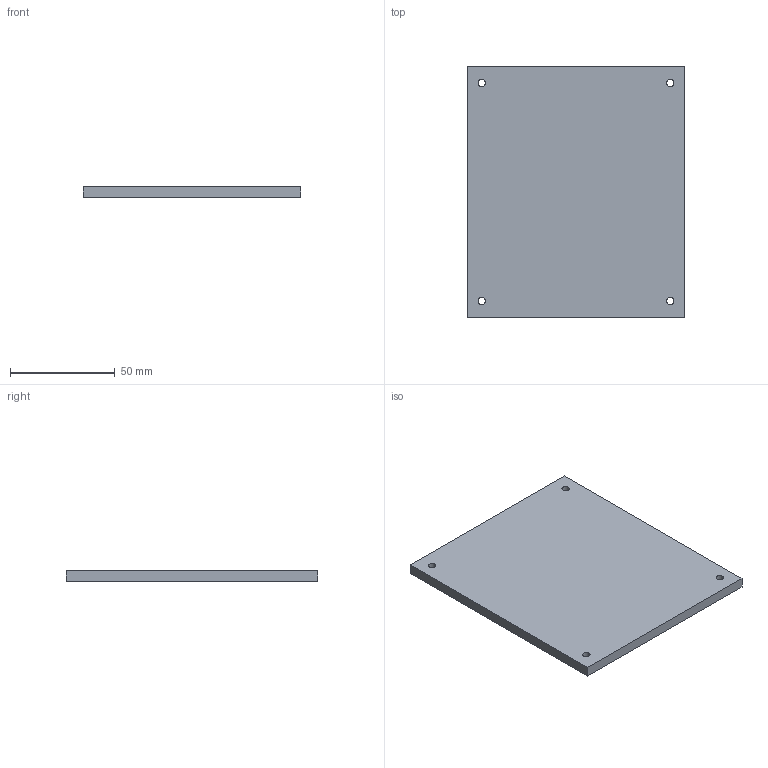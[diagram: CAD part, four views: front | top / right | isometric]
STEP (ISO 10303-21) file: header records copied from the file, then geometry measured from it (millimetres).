
FILE_DESCRIPTION(('Open CASCADE Model'),'2;1');
FILE_NAME('Open CASCADE Shape Model','2026-10-15T18:22:07',('Author'),( 'Open CASCADE'),'Open CASCADE STEP processor 7.9','Open CASCADE 7.9' ,'Unknown');
FILE_SCHEMA(('AUTOMOTIVE_DESIGN { 1 0 10303 214 1 1 1 1 }'));
Length unit declared in the file: millimetre
Products named in the file (1): Open CASCADE STEP translator 7.9 5
Bounding box: 104 x 120 x 5 mm (x, y, z)
Volume: 62207.6 mm3; surface area: 27342.9 mm2
Topology: 1 solids, 1 shells, 10 faces, 24 edges, 16 vertices
Faces by surface type: plane 6, cylinder 4
Full cylindrical faces by diameter (mm): 3.5 x4
Entity records: 634 total; most frequent: DIRECTION 102, CARTESIAN_POINT 99, LINE 56, VECTOR 56, ORIENTED_EDGE 48, PCURVE 48, DEFINITIONAL_REPRESENTATION 48, EDGE_CURVE 24
